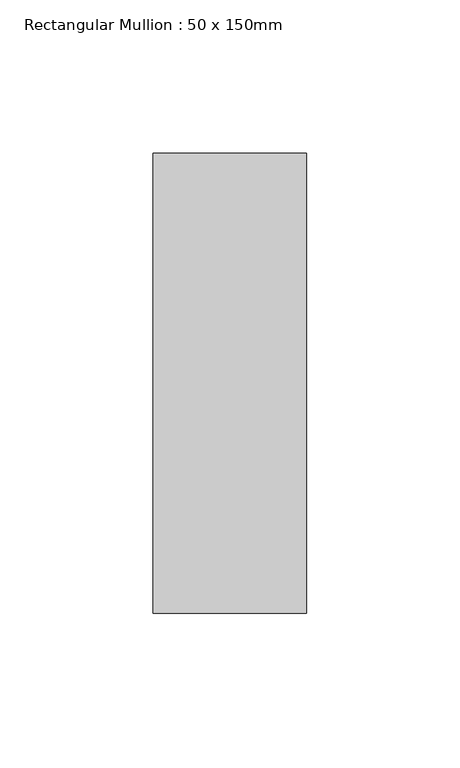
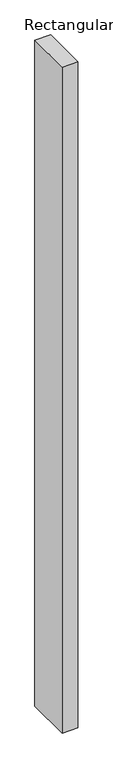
"""IFC4 building model written with IfcOpenShell, lengths in millimetres: member geometry, Rectangular Mullion : 50 x 150mm."""

from ifc_helpers import new_model, si_unit, frame, origin, place, context, project, spatial, polyline, outline, extrude, source, transform, mapped, element, save


def rectangular_mullion_50_x_150mm_de483d99(model_context):
    return source(origin(), model_context, "Body", "SweptSolid", [
        extrude(outline(polyline([(0.0, 75.0), (0.0, -75.0), (-50.0, -75.0), (-50.0, 75.0), (0.0, 75.0)])), frame((0.0, 0.0, -2250.0), z_axis=(0.0, 0.0, 1.0), x_axis=(1.0, 0.0, 0.0)), (0.0, 0.0, 1.0), 2250.0),
    ])


if __name__ == "__main__":
    model = new_model("IFC4")
    model_context = context("Model", 3, world=origin())
    ifc_project = project(units=[si_unit("LENGTHUNIT", "METRE", prefix="MILLI")], contexts=[model_context])
    site = spatial("IfcSite", under=ifc_project)
    building = spatial("IfcBuilding", under=site)
    placement = place(None, origin())
    rectangular_mullion_50_x_150mm_shape = rectangular_mullion_50_x_150mm_de483d99(model_context)
    element("IfcMember", 1, ObjectType="Rectangular Mullion : 50 x 150mm", at=placement, inside=building, context=model_context, shape_type="MappedRepresentation", body=[
        mapped(rectangular_mullion_50_x_150mm_shape, transform((0.0, 0.0, 0.0), x_axis=(1.0, 0.0, 0.0), y_axis=(0.0, 1.0, 0.0), z_axis=(0.0, 0.0, 1.0))),
    ])
    save(model, "model.ifc")
